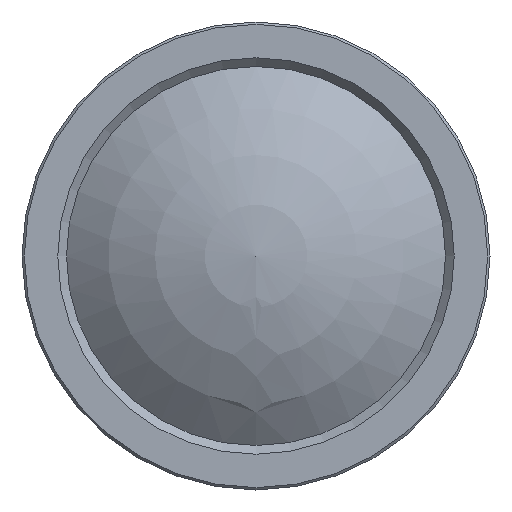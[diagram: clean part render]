
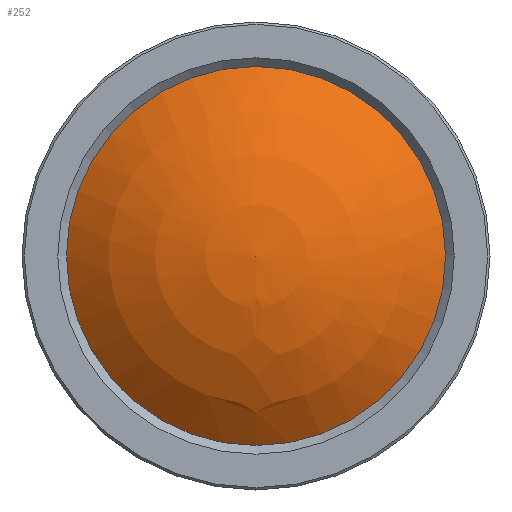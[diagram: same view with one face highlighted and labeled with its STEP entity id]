
A CAD part, left-side view. The second image highlights one B-rep face of the part: STEP entity #252.
In plain terms, the highlighted spherical face has radius 12.4 mm.
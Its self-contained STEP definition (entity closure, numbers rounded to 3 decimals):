
#60=FACE_OUTER_BOUND('',#78,.T.);
#78=EDGE_LOOP('',(#181,#182,#183));
#100=CIRCLE('',#294,8.1);
#101=CIRCLE('',#295,12.4);
#123=VERTEX_POINT('',#432);
#124=VERTEX_POINT('',#434);
#146=EDGE_CURVE('',#123,#123,#100,.T.);
#147=EDGE_CURVE('',#123,#124,#101,.T.);
#181=ORIENTED_EDGE('',*,*,#146,.T.);
#182=ORIENTED_EDGE('',*,*,#147,.T.);
#183=ORIENTED_EDGE('',*,*,#147,.F.);
#251=SPHERICAL_SURFACE('',#293,12.4);
#252=ADVANCED_FACE('',(#60),#251,.T.);
#293=AXIS2_PLACEMENT_3D('',#431,#336,#337);
#294=AXIS2_PLACEMENT_3D('',#433,#338,#339);
#295=AXIS2_PLACEMENT_3D('',#435,#340,#341);
#336=DIRECTION('center_axis',(1.,0.,0.));
#337=DIRECTION('ref_axis',(0.,0.,1.));
#338=DIRECTION('center_axis',(-1.,0.,0.));
#339=DIRECTION('ref_axis',(0.,0.,-1.));
#340=DIRECTION('center_axis',(0.,1.,0.));
#341=DIRECTION('ref_axis',(0.,0.,-1.));
#431=CARTESIAN_POINT('Origin',(-1.883,0.,4.876));
#432=CARTESIAN_POINT('',(-11.272,0.,-3.224));
#433=CARTESIAN_POINT('Origin',(-11.272,0.,4.876));
#434=CARTESIAN_POINT('',(-14.283,0.,4.876));
#435=CARTESIAN_POINT('Origin',(-1.883,0.,4.876));
